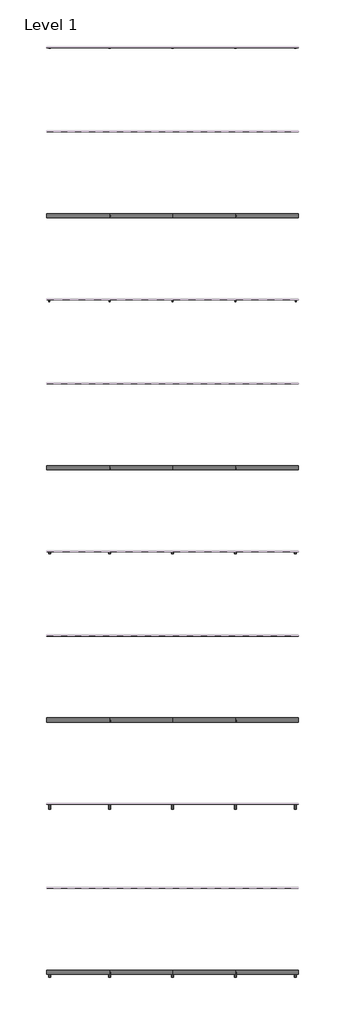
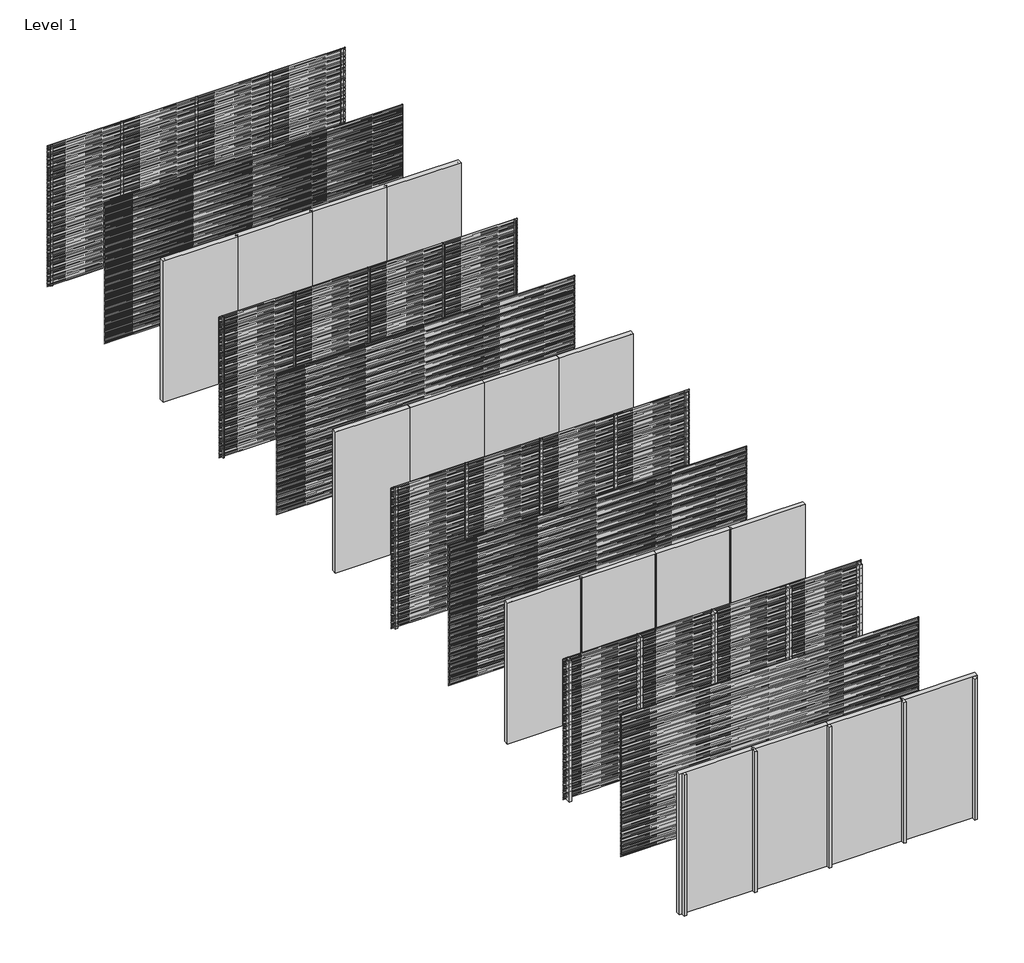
# One storey, part 1 of 31: 41 proxies, 40 members, 36 plates.
"""IFC4 building model written with IfcOpenShell, lengths in millimetres."""

from ifc_helpers import new_model, si_unit, frame, origin, origin_with_axes, place, context, project, spatial, polyline, outline, extrude, transform, mapped, element, save
from components import rectangular_mullion_bbbcbd30, rectangular_mullion_f8d4a220, rectangular_mullion_81aaf6fe, rectangular_mullion_6e08dc26, rectangular_mullion_75c52e10, rectangular_mullion_40295cf1, rectangular_mullion_7f158cb3, rectangular_mullion_66519e13, rectangular_mullion_5829b51c, rectangular_mullion_3b5b8a15, rectangular_mullion_81543344, rectangular_mullion_041a21c4, empty_system_panel_empty_ae16e1e1, empty_system_panel_empty_4cf993bc

model = new_model("IFC4")

# Units and contexts
model_context = context("Model", 3, world=origin())
ifc_project = project(units=[si_unit("LENGTHUNIT", "METRE", prefix="MILLI")], contexts=[model_context])

# Site, building, storey
site = spatial("IfcSite", under=ifc_project)
building = spatial("IfcBuilding", under=site)
storey = spatial("IfcBuildingStorey", under=building, Name="Level 1", Elevation=0.0)

# Proxies
placement = place(None, origin())
element("IfcBuildingElementProxy", 1, Name="Wall Sweeps", at=placement, inside=storey, context=model_context, shape_type="SweptSolid", body=[
    extrude(outline(polyline([(-19995.0, 3000.0), (-19995.0, 2988.942893), (-19976.0, 2973.0), (-19976.0, 2960.0), (-19997.0, 2977.6210923), (-19997.0, 3000.0), (-19995.0, 3000.0)])), frame((0.0, 0.0, 0.0), z_axis=(1.0, 0.0, 0.0), x_axis=(0.0, 1.0, 0.0)), (0.0, 0.0, 1.0), 6000.0),
])
element("IfcBuildingElementProxy", 2, Name="Wall Sweeps", at=placement, inside=storey, context=model_context, shape_type="SweptSolid", body=[
    extrude(outline(polyline([(-19995.0, 2980.0), (-19995.0, 2968.942893), (-19976.0, 2953.0), (-19976.0, 2940.0), (-19997.0, 2957.6210923), (-19997.0, 2980.0), (-19995.0, 2980.0)])), frame((0.0, 0.0, 0.0), z_axis=(1.0, 0.0, 0.0), x_axis=(0.0, 1.0, 0.0)), (0.0, 0.0, 1.0), 6000.0),
])
element("IfcBuildingElementProxy", 3, Name="Wall Sweeps", at=placement, inside=storey, context=model_context, shape_type="SweptSolid", body=[
    extrude(outline(polyline([(-19995.0, 2960.0), (-19995.0, 2948.942893), (-19976.0, 2933.0), (-19976.0, 2920.0), (-19997.0, 2937.6210923), (-19997.0, 2960.0), (-19995.0, 2960.0)])), frame((0.0, 0.0, 0.0), z_axis=(1.0, 0.0, 0.0), x_axis=(0.0, 1.0, 0.0)), (0.0, 0.0, 1.0), 6000.0),
])
element("IfcBuildingElementProxy", 4, Name="Wall Sweeps", at=placement, inside=storey, context=model_context, shape_type="SweptSolid", body=[
    extrude(outline(polyline([(-19995.0, 2940.0), (-19995.0, 2928.942893), (-19976.0, 2913.0), (-19976.0, 2900.0), (-19997.0, 2917.6210923), (-19997.0, 2940.0), (-19995.0, 2940.0)])), frame((0.0, 0.0, 0.0), z_axis=(1.0, 0.0, 0.0), x_axis=(0.0, 1.0, 0.0)), (0.0, 0.0, 1.0), 6000.0),
])
element("IfcBuildingElementProxy", 5, Name="Wall Sweeps", at=placement, inside=storey, context=model_context, shape_type="SweptSolid", body=[
    extrude(outline(polyline([(-19995.0, 2920.0), (-19995.0, 2908.942893), (-19976.0, 2893.0), (-19976.0, 2880.0), (-19997.0, 2897.6210923), (-19997.0, 2920.0), (-19995.0, 2920.0)])), frame((0.0, 0.0, 0.0), z_axis=(1.0, 0.0, 0.0), x_axis=(0.0, 1.0, 0.0)), (0.0, 0.0, 1.0), 6000.0),
])
element("IfcBuildingElementProxy", 6, Name="Wall Sweeps", at=placement, inside=storey, context=model_context, shape_type="SweptSolid", body=[
    extrude(outline(polyline([(-19995.0, 2900.0), (-19995.0, 2888.942893), (-19976.0, 2873.0), (-19976.0, 2860.0), (-19997.0, 2877.6210923), (-19997.0, 2900.0), (-19995.0, 2900.0)])), frame((0.0, 0.0, 0.0), z_axis=(1.0, 0.0, 0.0), x_axis=(0.0, 1.0, 0.0)), (0.0, 0.0, 1.0), 6000.0),
])
element("IfcBuildingElementProxy", 7, Name="Wall Sweeps", at=placement, inside=storey, context=model_context, shape_type="SweptSolid", body=[
    extrude(outline(polyline([(-19995.0, 2880.0), (-19995.0, 2868.942893), (-19976.0, 2853.0), (-19976.0, 2840.0), (-19997.0, 2857.6210923), (-19997.0, 2880.0), (-19995.0, 2880.0)])), frame((0.0, 0.0, 0.0), z_axis=(1.0, 0.0, 0.0), x_axis=(0.0, 1.0, 0.0)), (0.0, 0.0, 1.0), 6000.0),
])
element("IfcBuildingElementProxy", 8, Name="Wall Sweeps", at=placement, inside=storey, context=model_context, shape_type="SweptSolid", body=[
    extrude(outline(polyline([(-19995.0, 2860.0), (-19995.0, 2848.942893), (-19976.0, 2833.0), (-19976.0, 2820.0), (-19997.0, 2837.6210923), (-19997.0, 2860.0), (-19995.0, 2860.0)])), frame((0.0, 0.0, 0.0), z_axis=(1.0, 0.0, 0.0), x_axis=(0.0, 1.0, 0.0)), (0.0, 0.0, 1.0), 6000.0),
])
element("IfcBuildingElementProxy", 9, Name="Wall Sweeps", at=placement, inside=storey, context=model_context, shape_type="SweptSolid", body=[
    extrude(outline(polyline([(-19995.0, 2840.0), (-19995.0, 2828.942893), (-19976.0, 2813.0), (-19976.0, 2800.0), (-19997.0, 2817.6210923), (-19997.0, 2840.0), (-19995.0, 2840.0)])), frame((0.0, 0.0, 0.0), z_axis=(1.0, 0.0, 0.0), x_axis=(0.0, 1.0, 0.0)), (0.0, 0.0, 1.0), 6000.0),
])
element("IfcBuildingElementProxy", 10, Name="Wall Sweeps", at=placement, inside=storey, context=model_context, shape_type="SweptSolid", body=[
    extrude(outline(polyline([(-19995.0, 2820.0), (-19995.0, 2808.942893), (-19976.0, 2793.0), (-19976.0, 2780.0), (-19997.0, 2797.6210923), (-19997.0, 2820.0), (-19995.0, 2820.0)])), frame((0.0, 0.0, 0.0), z_axis=(1.0, 0.0, 0.0), x_axis=(0.0, 1.0, 0.0)), (0.0, 0.0, 1.0), 6000.0),
])
element("IfcBuildingElementProxy", 11, Name="Wall Sweeps", at=placement, inside=storey, context=model_context, shape_type="SweptSolid", body=[
    extrude(outline(polyline([(-19995.0, 2800.0), (-19995.0, 2788.942893), (-19976.0, 2773.0), (-19976.0, 2760.0), (-19997.0, 2777.6210923), (-19997.0, 2800.0), (-19995.0, 2800.0)])), frame((0.0, 0.0, 0.0), z_axis=(1.0, 0.0, 0.0), x_axis=(0.0, 1.0, 0.0)), (0.0, 0.0, 1.0), 6000.0),
])
element("IfcBuildingElementProxy", 12, Name="Wall Sweeps", at=placement, inside=storey, context=model_context, shape_type="SweptSolid", body=[
    extrude(outline(polyline([(-19995.0, 2780.0), (-19995.0, 2768.942893), (-19976.0, 2753.0), (-19976.0, 2740.0), (-19997.0, 2757.6210923), (-19997.0, 2780.0), (-19995.0, 2780.0)])), frame((0.0, 0.0, 0.0), z_axis=(1.0, 0.0, 0.0), x_axis=(0.0, 1.0, 0.0)), (0.0, 0.0, 1.0), 6000.0),
])
element("IfcBuildingElementProxy", 13, Name="Wall Sweeps", at=placement, inside=storey, context=model_context, shape_type="SweptSolid", body=[
    extrude(outline(polyline([(-19995.0, 2760.0), (-19995.0, 2748.942893), (-19976.0, 2733.0), (-19976.0, 2720.0), (-19997.0, 2737.6210923), (-19997.0, 2760.0), (-19995.0, 2760.0)])), frame((0.0, 0.0, 0.0), z_axis=(1.0, 0.0, 0.0), x_axis=(0.0, 1.0, 0.0)), (0.0, 0.0, 1.0), 6000.0),
])
element("IfcBuildingElementProxy", 14, Name="Wall Sweeps", at=placement, inside=storey, context=model_context, shape_type="SweptSolid", body=[
    extrude(outline(polyline([(-19995.0, 2740.0), (-19995.0, 2728.942893), (-19976.0, 2713.0), (-19976.0, 2700.0), (-19997.0, 2717.6210923), (-19997.0, 2740.0), (-19995.0, 2740.0)])), frame((0.0, 0.0, 0.0), z_axis=(1.0, 0.0, 0.0), x_axis=(0.0, 1.0, 0.0)), (0.0, 0.0, 1.0), 6000.0),
])
element("IfcBuildingElementProxy", 15, Name="Wall Sweeps", at=placement, inside=storey, context=model_context, shape_type="SweptSolid", body=[
    extrude(outline(polyline([(-19995.0, 2720.0), (-19995.0, 2708.942893), (-19976.0, 2693.0), (-19976.0, 2680.0), (-19997.0, 2697.6210923), (-19997.0, 2720.0), (-19995.0, 2720.0)])), frame((0.0, 0.0, 0.0), z_axis=(1.0, 0.0, 0.0), x_axis=(0.0, 1.0, 0.0)), (0.0, 0.0, 1.0), 6000.0),
])
element("IfcBuildingElementProxy", 16, Name="Wall Sweeps", at=placement, inside=storey, context=model_context, shape_type="SweptSolid", body=[
    extrude(outline(polyline([(-19995.0, 2700.0), (-19995.0, 2688.942893), (-19976.0, 2673.0), (-19976.0, 2660.0), (-19997.0, 2677.6210923), (-19997.0, 2700.0), (-19995.0, 2700.0)])), frame((0.0, 0.0, 0.0), z_axis=(1.0, 0.0, 0.0), x_axis=(0.0, 1.0, 0.0)), (0.0, 0.0, 1.0), 6000.0),
])
element("IfcBuildingElementProxy", 17, Name="Wall Sweeps", at=placement, inside=storey, context=model_context, shape_type="SweptSolid", body=[
    extrude(outline(polyline([(-19995.0, 2680.0), (-19995.0, 2668.942893), (-19976.0, 2653.0), (-19976.0, 2640.0), (-19997.0, 2657.6210923), (-19997.0, 2680.0), (-19995.0, 2680.0)])), frame((0.0, 0.0, 0.0), z_axis=(1.0, 0.0, 0.0), x_axis=(0.0, 1.0, 0.0)), (0.0, 0.0, 1.0), 6000.0),
])
element("IfcBuildingElementProxy", 18, Name="Wall Sweeps", at=placement, inside=storey, context=model_context, shape_type="SweptSolid", body=[
    extrude(outline(polyline([(-19995.0, 2660.0), (-19995.0, 2648.942893), (-19976.0, 2633.0), (-19976.0, 2620.0), (-19997.0, 2637.6210923), (-19997.0, 2660.0), (-19995.0, 2660.0)])), frame((0.0, 0.0, 0.0), z_axis=(1.0, 0.0, 0.0), x_axis=(0.0, 1.0, 0.0)), (0.0, 0.0, 1.0), 6000.0),
])
element("IfcBuildingElementProxy", 19, Name="Wall Sweeps", at=placement, inside=storey, context=model_context, shape_type="SweptSolid", body=[
    extrude(outline(polyline([(-19995.0, 2640.0), (-19995.0, 2628.942893), (-19976.0, 2613.0), (-19976.0, 2600.0), (-19997.0, 2617.6210923), (-19997.0, 2640.0), (-19995.0, 2640.0)])), frame((0.0, 0.0, 0.0), z_axis=(1.0, 0.0, 0.0), x_axis=(0.0, 1.0, 0.0)), (0.0, 0.0, 1.0), 6000.0),
])
element("IfcBuildingElementProxy", 20, Name="Wall Sweeps", at=placement, inside=storey, context=model_context, shape_type="SweptSolid", body=[
    extrude(outline(polyline([(-19995.0, 2620.0), (-19995.0, 2608.942893), (-19976.0, 2593.0), (-19976.0, 2580.0), (-19997.0, 2597.6210923), (-19997.0, 2620.0), (-19995.0, 2620.0)])), frame((0.0, 0.0, 0.0), z_axis=(1.0, 0.0, 0.0), x_axis=(0.0, 1.0, 0.0)), (0.0, 0.0, 1.0), 6000.0),
])
element("IfcBuildingElementProxy", 21, Name="Wall Sweeps", at=placement, inside=storey, context=model_context, shape_type="SweptSolid", body=[
    extrude(outline(polyline([(-19995.0, 2600.0), (-19995.0, 2588.942893), (-19976.0, 2573.0), (-19976.0, 2560.0), (-19997.0, 2577.6210923), (-19997.0, 2600.0), (-19995.0, 2600.0)])), frame((0.0, 0.0, 0.0), z_axis=(1.0, 0.0, 0.0), x_axis=(0.0, 1.0, 0.0)), (0.0, 0.0, 1.0), 6000.0),
])
element("IfcBuildingElementProxy", 22, Name="Wall Sweeps", at=placement, inside=storey, context=model_context, shape_type="SweptSolid", body=[
    extrude(outline(polyline([(-19995.0, 2580.0), (-19995.0, 2568.942893), (-19976.0, 2553.0), (-19976.0, 2540.0), (-19997.0, 2557.6210923), (-19997.0, 2580.0), (-19995.0, 2580.0)])), frame((0.0, 0.0, 0.0), z_axis=(1.0, 0.0, 0.0), x_axis=(0.0, 1.0, 0.0)), (0.0, 0.0, 1.0), 6000.0),
])
element("IfcBuildingElementProxy", 23, Name="Wall Sweeps", at=placement, inside=storey, context=model_context, shape_type="SweptSolid", body=[
    extrude(outline(polyline([(-19995.0, 2560.0), (-19995.0, 2548.942893), (-19976.0, 2533.0), (-19976.0, 2520.0), (-19997.0, 2537.6210923), (-19997.0, 2560.0), (-19995.0, 2560.0)])), frame((0.0, 0.0, 0.0), z_axis=(1.0, 0.0, 0.0), x_axis=(0.0, 1.0, 0.0)), (0.0, 0.0, 1.0), 6000.0),
])
element("IfcBuildingElementProxy", 24, Name="Wall Sweeps", at=placement, inside=storey, context=model_context, shape_type="SweptSolid", body=[
    extrude(outline(polyline([(-19995.0, 2540.0), (-19995.0, 2528.942893), (-19976.0, 2513.0), (-19976.0, 2500.0), (-19997.0, 2517.6210923), (-19997.0, 2540.0), (-19995.0, 2540.0)])), frame((0.0, 0.0, 0.0), z_axis=(1.0, 0.0, 0.0), x_axis=(0.0, 1.0, 0.0)), (0.0, 0.0, 1.0), 6000.0),
])
element("IfcBuildingElementProxy", 25, Name="Wall Sweeps", at=placement, inside=storey, context=model_context, shape_type="SweptSolid", body=[
    extrude(outline(polyline([(-19995.0, 2520.0), (-19995.0, 2508.942893), (-19976.0, 2493.0), (-19976.0, 2480.0), (-19997.0, 2497.6210923), (-19997.0, 2520.0), (-19995.0, 2520.0)])), frame((0.0, 0.0, 0.0), z_axis=(1.0, 0.0, 0.0), x_axis=(0.0, 1.0, 0.0)), (0.0, 0.0, 1.0), 6000.0),
])
element("IfcBuildingElementProxy", 26, Name="Wall Sweeps", at=placement, inside=storey, context=model_context, shape_type="SweptSolid", body=[
    extrude(outline(polyline([(-19995.0, 2500.0), (-19995.0, 2488.942893), (-19976.0, 2473.0), (-19976.0, 2460.0), (-19997.0, 2477.6210923), (-19997.0, 2500.0), (-19995.0, 2500.0)])), frame((0.0, 0.0, 0.0), z_axis=(1.0, 0.0, 0.0), x_axis=(0.0, 1.0, 0.0)), (0.0, 0.0, 1.0), 6000.0),
])
element("IfcBuildingElementProxy", 27, Name="Wall Sweeps", at=placement, inside=storey, context=model_context, shape_type="SweptSolid", body=[
    extrude(outline(polyline([(-19995.0, 2480.0), (-19995.0, 2468.942893), (-19976.0, 2453.0), (-19976.0, 2440.0), (-19997.0, 2457.6210923), (-19997.0, 2480.0), (-19995.0, 2480.0)])), frame((0.0, 0.0, 0.0), z_axis=(1.0, 0.0, 0.0), x_axis=(0.0, 1.0, 0.0)), (0.0, 0.0, 1.0), 6000.0),
])
element("IfcBuildingElementProxy", 28, Name="Wall Sweeps", at=placement, inside=storey, context=model_context, shape_type="SweptSolid", body=[
    extrude(outline(polyline([(-19995.0, 2460.0), (-19995.0, 2448.942893), (-19976.0, 2433.0), (-19976.0, 2420.0), (-19997.0, 2437.6210923), (-19997.0, 2460.0), (-19995.0, 2460.0)])), frame((0.0, 0.0, 0.0), z_axis=(1.0, 0.0, 0.0), x_axis=(0.0, 1.0, 0.0)), (0.0, 0.0, 1.0), 6000.0),
])
element("IfcBuildingElementProxy", 29, Name="Wall Sweeps", at=placement, inside=storey, context=model_context, shape_type="SweptSolid", body=[
    extrude(outline(polyline([(-19995.0, 2440.0), (-19995.0, 2428.942893), (-19976.0, 2413.0), (-19976.0, 2400.0), (-19997.0, 2417.6210923), (-19997.0, 2440.0), (-19995.0, 2440.0)])), frame((0.0, 0.0, 0.0), z_axis=(1.0, 0.0, 0.0), x_axis=(0.0, 1.0, 0.0)), (0.0, 0.0, 1.0), 6000.0),
])
element("IfcBuildingElementProxy", 30, Name="Wall Sweeps", at=placement, inside=storey, context=model_context, shape_type="SweptSolid", body=[
    extrude(outline(polyline([(-19995.0, 2420.0), (-19995.0, 2408.942893), (-19976.0, 2393.0), (-19976.0, 2380.0), (-19997.0, 2397.6210923), (-19997.0, 2420.0), (-19995.0, 2420.0)])), frame((0.0, 0.0, 0.0), z_axis=(1.0, 0.0, 0.0), x_axis=(0.0, 1.0, 0.0)), (0.0, 0.0, 1.0), 6000.0),
])
element("IfcBuildingElementProxy", 31, Name="Wall Sweeps", at=placement, inside=storey, context=model_context, shape_type="SweptSolid", body=[
    extrude(outline(polyline([(-19995.0, 2400.0), (-19995.0, 2388.942893), (-19976.0, 2373.0), (-19976.0, 2360.0), (-19997.0, 2377.6210923), (-19997.0, 2400.0), (-19995.0, 2400.0)])), frame((0.0, 0.0, 0.0), z_axis=(1.0, 0.0, 0.0), x_axis=(0.0, 1.0, 0.0)), (0.0, 0.0, 1.0), 6000.0),
])
element("IfcBuildingElementProxy", 32, Name="Wall Sweeps", at=placement, inside=storey, context=model_context, shape_type="SweptSolid", body=[
    extrude(outline(polyline([(-19995.0, 2380.0), (-19995.0, 2368.942893), (-19976.0, 2353.0), (-19976.0, 2340.0), (-19997.0, 2357.6210923), (-19997.0, 2380.0), (-19995.0, 2380.0)])), frame((0.0, 0.0, 0.0), z_axis=(1.0, 0.0, 0.0), x_axis=(0.0, 1.0, 0.0)), (0.0, 0.0, 1.0), 6000.0),
])
element("IfcBuildingElementProxy", 33, Name="Wall Sweeps", at=placement, inside=storey, context=model_context, shape_type="SweptSolid", body=[
    extrude(outline(polyline([(-19995.0, 2360.0), (-19995.0, 2348.942893), (-19976.0, 2333.0), (-19976.0, 2320.0), (-19997.0, 2337.6210923), (-19997.0, 2360.0), (-19995.0, 2360.0)])), frame((0.0, 0.0, 0.0), z_axis=(1.0, 0.0, 0.0), x_axis=(0.0, 1.0, 0.0)), (0.0, 0.0, 1.0), 6000.0),
])
element("IfcBuildingElementProxy", 34, Name="Wall Sweeps", at=placement, inside=storey, context=model_context, shape_type="SweptSolid", body=[
    extrude(outline(polyline([(-19995.0, 2340.0), (-19995.0, 2328.942893), (-19976.0, 2313.0), (-19976.0, 2300.0), (-19997.0, 2317.6210923), (-19997.0, 2340.0), (-19995.0, 2340.0)])), frame((0.0, 0.0, 0.0), z_axis=(1.0, 0.0, 0.0), x_axis=(0.0, 1.0, 0.0)), (0.0, 0.0, 1.0), 6000.0),
])
element("IfcBuildingElementProxy", 35, Name="Wall Sweeps", at=placement, inside=storey, context=model_context, shape_type="SweptSolid", body=[
    extrude(outline(polyline([(-19995.0, 2320.0), (-19995.0, 2308.942893), (-19976.0, 2293.0), (-19976.0, 2280.0), (-19997.0, 2297.6210923), (-19997.0, 2320.0), (-19995.0, 2320.0)])), frame((0.0, 0.0, 0.0), z_axis=(1.0, 0.0, 0.0), x_axis=(0.0, 1.0, 0.0)), (0.0, 0.0, 1.0), 6000.0),
])
element("IfcBuildingElementProxy", 36, Name="Wall Sweeps", at=placement, inside=storey, context=model_context, shape_type="SweptSolid", body=[
    extrude(outline(polyline([(-19995.0, 2300.0), (-19995.0, 2288.942893), (-19976.0, 2273.0), (-19976.0, 2260.0), (-19997.0, 2277.6210923), (-19997.0, 2300.0), (-19995.0, 2300.0)])), frame((0.0, 0.0, 0.0), z_axis=(1.0, 0.0, 0.0), x_axis=(0.0, 1.0, 0.0)), (0.0, 0.0, 1.0), 6000.0),
])
element("IfcBuildingElementProxy", 37, Name="Wall Sweeps", at=placement, inside=storey, context=model_context, shape_type="SweptSolid", body=[
    extrude(outline(polyline([(-19995.0, 2280.0), (-19995.0, 2268.942893), (-19976.0, 2253.0), (-19976.0, 2240.0), (-19997.0, 2257.6210923), (-19997.0, 2280.0), (-19995.0, 2280.0)])), frame((0.0, 0.0, 0.0), z_axis=(1.0, 0.0, 0.0), x_axis=(0.0, 1.0, 0.0)), (0.0, 0.0, 1.0), 6000.0),
])
element("IfcBuildingElementProxy", 38, Name="Wall Sweeps", at=placement, inside=storey, context=model_context, shape_type="SweptSolid", body=[
    extrude(outline(polyline([(-19995.0, 2260.0), (-19995.0, 2248.942893), (-19976.0, 2233.0), (-19976.0, 2220.0), (-19997.0, 2237.6210923), (-19997.0, 2260.0), (-19995.0, 2260.0)])), frame((0.0, 0.0, 0.0), z_axis=(1.0, 0.0, 0.0), x_axis=(0.0, 1.0, 0.0)), (0.0, 0.0, 1.0), 6000.0),
])
element("IfcBuildingElementProxy", 39, Name="Wall Sweeps", at=placement, inside=storey, context=model_context, shape_type="SweptSolid", body=[
    extrude(outline(polyline([(-19995.0, 2240.0), (-19995.0, 2228.942893), (-19976.0, 2213.0), (-19976.0, 2200.0), (-19997.0, 2217.6210923), (-19997.0, 2240.0), (-19995.0, 2240.0)])), frame((0.0, 0.0, 0.0), z_axis=(1.0, 0.0, 0.0), x_axis=(0.0, 1.0, 0.0)), (0.0, 0.0, 1.0), 6000.0),
])
element("IfcBuildingElementProxy", 40, Name="Wall Sweeps", at=placement, inside=storey, context=model_context, shape_type="SweptSolid", body=[
    extrude(outline(polyline([(-19995.0, 2220.0), (-19995.0, 2208.942893), (-19976.0, 2193.0), (-19976.0, 2180.0), (-19997.0, 2197.6210923), (-19997.0, 2220.0), (-19995.0, 2220.0)])), frame((0.0, 0.0, 0.0), z_axis=(1.0, 0.0, 0.0), x_axis=(0.0, 1.0, 0.0)), (0.0, 0.0, 1.0), 6000.0),
])
element("IfcBuildingElementProxy", 41, Name="Wall Sweeps", at=placement, inside=storey, context=model_context, shape_type="SweptSolid", body=[
    extrude(outline(polyline([(-19995.0, 2200.0), (-19995.0, 2188.942893), (-19976.0, 2173.0), (-19976.0, 2160.0), (-19997.0, 2177.6210923), (-19997.0, 2200.0), (-19995.0, 2200.0)])), frame((0.0, 0.0, 0.0), z_axis=(1.0, 0.0, 0.0), x_axis=(0.0, 1.0, 0.0)), (0.0, 0.0, 1.0), 6000.0),
])

# Members
rectangular_mullion_shape = rectangular_mullion_bbbcbd30(model_context)
element("IfcMember", 42, ObjectType="Rectangular Mullion : RSen_21_CWM_support profile - 50x12 - left_gen_duco projects", at=placement, inside=storey, context=model_context, shape_type="MappedRepresentation", body=[
    mapped(rectangular_mullion_shape, transform((0.0, 0.0, 0.0), x_axis=(-1.0, 0.0, 0.0), y_axis=(0.0, 1.0, 0.0), z_axis=(0.0, 0.0, -1.0))),
])
element("IfcMember", 43, ObjectType="Rectangular Mullion : RSen_21_CWM_support profile - 50x12 - left_gen_duco projects", at=placement, inside=storey, context=model_context, shape_type="MappedRepresentation", body=[
    mapped(rectangular_mullion_shape, transform((0.0, -4000.0, 0.0), x_axis=(-1.0, 0.0, 0.0), y_axis=(0.0, 1.0, 0.0), z_axis=(0.0, 0.0, -1.0))),
])
rectangular_mullion_2_shape = rectangular_mullion_f8d4a220(model_context)
element("IfcMember", 44, ObjectType="Rectangular Mullion : RSen_21_CWM_support profile - 50x12 - right_gen_duco projects", at=placement, inside=storey, context=model_context, shape_type="MappedRepresentation", body=[
    mapped(rectangular_mullion_2_shape, transform((6000.0, 0.0, 3000.0), x_axis=(1.0, 0.0, 0.0), y_axis=(0.0, 1.0, 0.0), z_axis=(0.0, 0.0, 1.0))),
])
element("IfcMember", 45, ObjectType="Rectangular Mullion : RSen_21_CWM_support profile - 50x12 - right_gen_duco projects", at=placement, inside=storey, context=model_context, shape_type="MappedRepresentation", body=[
    mapped(rectangular_mullion_2_shape, transform((6000.0, -4000.0, 3000.0), x_axis=(1.0, 0.0, 0.0), y_axis=(0.0, 1.0, 0.0), z_axis=(0.0, 0.0, 1.0))),
])
rectangular_mullion_3_shape = rectangular_mullion_81aaf6fe(model_context)
element("IfcMember", 46, ObjectType="Rectangular Mullion : RSen_21_CWM_support profile - 21x50 Multi - left_gen_duco projects", at=placement, inside=storey, context=model_context, shape_type="MappedRepresentation", body=[
    mapped(rectangular_mullion_3_shape, transform((0.0, -6000.0, 0.0), x_axis=(-1.0, 0.0, 0.0), y_axis=(0.0, 1.0, 0.0), z_axis=(0.0, 0.0, -1.0))),
])
element("IfcMember", 47, ObjectType="Rectangular Mullion : RSen_21_CWM_support profile - 21x50 Multi - left_gen_duco projects", at=placement, inside=storey, context=model_context, shape_type="MappedRepresentation", body=[
    mapped(rectangular_mullion_3_shape, transform((0.0, -10000.0, 0.0), x_axis=(-1.0, 0.0, 0.0), y_axis=(0.0, 1.0, 0.0), z_axis=(0.0, 0.0, -1.0))),
])
rectangular_mullion_4_shape = rectangular_mullion_6e08dc26(model_context)
element("IfcMember", 48, ObjectType="Rectangular Mullion : RSen_21_CWM_support profile - 21x50 Multi - right_gen_duco projects", at=placement, inside=storey, context=model_context, shape_type="MappedRepresentation", body=[
    mapped(rectangular_mullion_4_shape, transform((6000.0, -6000.0, 3000.0), x_axis=(1.0, 0.0, 0.0), y_axis=(0.0, 1.0, 0.0), z_axis=(0.0, 0.0, 1.0))),
])
element("IfcMember", 49, ObjectType="Rectangular Mullion : RSen_21_CWM_support profile - 21x50 Multi - right_gen_duco projects", at=placement, inside=storey, context=model_context, shape_type="MappedRepresentation", body=[
    mapped(rectangular_mullion_4_shape, transform((6000.0, -10000.0, 3000.0), x_axis=(1.0, 0.0, 0.0), y_axis=(0.0, 1.0, 0.0), z_axis=(0.0, 0.0, 1.0))),
])
rectangular_mullion_5_shape = rectangular_mullion_75c52e10(model_context)
element("IfcMember", 50, ObjectType="Rectangular Mullion : RSen_21_CWM_support profile - 50x50 - left_gen_duco projects", at=placement, inside=storey, context=model_context, shape_type="MappedRepresentation", body=[
    mapped(rectangular_mullion_5_shape, transform((0.0, -12000.0, 0.0), x_axis=(-1.0, 0.0, 0.0), y_axis=(0.0, 1.0, 0.0), z_axis=(0.0, 0.0, -1.0))),
])
element("IfcMember", 51, ObjectType="Rectangular Mullion : RSen_21_CWM_support profile - 50x50 - left_gen_duco projects", at=placement, inside=storey, context=model_context, shape_type="MappedRepresentation", body=[
    mapped(rectangular_mullion_5_shape, transform((0.0, -16000.0, 0.0), x_axis=(-1.0, 0.0, 0.0), y_axis=(0.0, 1.0, 0.0), z_axis=(0.0, 0.0, -1.0))),
])
rectangular_mullion_6_shape = rectangular_mullion_40295cf1(model_context)
element("IfcMember", 52, ObjectType="Rectangular Mullion : RSen_21_CWM_support profile - 50x50 - right_gen_duco projects", at=placement, inside=storey, context=model_context, shape_type="MappedRepresentation", body=[
    mapped(rectangular_mullion_6_shape, transform((6000.0, -12000.0, 3000.0), x_axis=(1.0, 0.0, 0.0), y_axis=(0.0, 1.0, 0.0), z_axis=(0.0, 0.0, 1.0))),
])
element("IfcMember", 53, ObjectType="Rectangular Mullion : RSen_21_CWM_support profile - 50x50 - right_gen_duco projects", at=placement, inside=storey, context=model_context, shape_type="MappedRepresentation", body=[
    mapped(rectangular_mullion_6_shape, transform((6000.0, -16000.0, 3000.0), x_axis=(1.0, 0.0, 0.0), y_axis=(0.0, 1.0, 0.0), z_axis=(0.0, 0.0, 1.0))),
])
rectangular_mullion_7_shape = rectangular_mullion_7f158cb3(model_context)
element("IfcMember", 54, ObjectType="Rectangular Mullion : RSen_21_CWM_support profile - 50x12_gen_duco projects", at=placement, inside=storey, context=model_context, shape_type="MappedRepresentation", body=[
    mapped(rectangular_mullion_7_shape, transform((4500.0, 0.0, 0.0), x_axis=(-1.0, 0.0, 0.0), y_axis=(0.0, 1.0, 0.0), z_axis=(0.0, 0.0, -1.0))),
])
element("IfcMember", 55, ObjectType="Rectangular Mullion : RSen_21_CWM_support profile - 50x12_gen_duco projects", at=placement, inside=storey, context=model_context, shape_type="MappedRepresentation", body=[
    mapped(rectangular_mullion_7_shape, transform((3000.0, 0.0, 0.0), x_axis=(-1.0, 0.0, 0.0), y_axis=(0.0, 1.0, 0.0), z_axis=(0.0, 0.0, -1.0))),
])
element("IfcMember", 56, ObjectType="Rectangular Mullion : RSen_21_CWM_support profile - 50x12_gen_duco projects", at=placement, inside=storey, context=model_context, shape_type="MappedRepresentation", body=[
    mapped(rectangular_mullion_7_shape, transform((1500.0, 0.0, 0.0), x_axis=(-1.0, 0.0, 0.0), y_axis=(0.0, 1.0, 0.0), z_axis=(0.0, 0.0, -1.0))),
])
element("IfcMember", 57, ObjectType="Rectangular Mullion : RSen_21_CWM_support profile - 50x12_gen_duco projects", at=placement, inside=storey, context=model_context, shape_type="MappedRepresentation", body=[
    mapped(rectangular_mullion_7_shape, transform((4500.0, -4000.0, 0.0), x_axis=(-1.0, 0.0, 0.0), y_axis=(0.0, 1.0, 0.0), z_axis=(0.0, 0.0, -1.0))),
])
element("IfcMember", 58, ObjectType="Rectangular Mullion : RSen_21_CWM_support profile - 50x12_gen_duco projects", at=placement, inside=storey, context=model_context, shape_type="MappedRepresentation", body=[
    mapped(rectangular_mullion_7_shape, transform((3000.0, -4000.0, 0.0), x_axis=(-1.0, 0.0, 0.0), y_axis=(0.0, 1.0, 0.0), z_axis=(0.0, 0.0, -1.0))),
])
element("IfcMember", 59, ObjectType="Rectangular Mullion : RSen_21_CWM_support profile - 50x12_gen_duco projects", at=placement, inside=storey, context=model_context, shape_type="MappedRepresentation", body=[
    mapped(rectangular_mullion_7_shape, transform((1500.0, -4000.0, 0.0), x_axis=(-1.0, 0.0, 0.0), y_axis=(0.0, 1.0, 0.0), z_axis=(0.0, 0.0, -1.0))),
])
rectangular_mullion_8_shape = rectangular_mullion_66519e13(model_context)
element("IfcMember", 60, ObjectType="Rectangular Mullion : RSen_21_CWM_support profile - 21x50 Multi_gen_duco projects", at=placement, inside=storey, context=model_context, shape_type="MappedRepresentation", body=[
    mapped(rectangular_mullion_8_shape, transform((4500.0, -6000.0, 0.0), x_axis=(-1.0, 0.0, 0.0), y_axis=(0.0, 1.0, 0.0), z_axis=(0.0, 0.0, -1.0))),
])
element("IfcMember", 61, ObjectType="Rectangular Mullion : RSen_21_CWM_support profile - 21x50 Multi_gen_duco projects", at=placement, inside=storey, context=model_context, shape_type="MappedRepresentation", body=[
    mapped(rectangular_mullion_8_shape, transform((3000.0, -6000.0, 0.0), x_axis=(-1.0, 0.0, 0.0), y_axis=(0.0, 1.0, 0.0), z_axis=(0.0, 0.0, -1.0))),
])
element("IfcMember", 62, ObjectType="Rectangular Mullion : RSen_21_CWM_support profile - 21x50 Multi_gen_duco projects", at=placement, inside=storey, context=model_context, shape_type="MappedRepresentation", body=[
    mapped(rectangular_mullion_8_shape, transform((1500.0, -6000.0, 0.0), x_axis=(-1.0, 0.0, 0.0), y_axis=(0.0, 1.0, 0.0), z_axis=(0.0, 0.0, -1.0))),
])
element("IfcMember", 63, ObjectType="Rectangular Mullion : RSen_21_CWM_support profile - 21x50 Multi_gen_duco projects", at=placement, inside=storey, context=model_context, shape_type="MappedRepresentation", body=[
    mapped(rectangular_mullion_8_shape, transform((4500.0, -10000.0, 0.0), x_axis=(-1.0, 0.0, 0.0), y_axis=(0.0, 1.0, 0.0), z_axis=(0.0, 0.0, -1.0))),
])
element("IfcMember", 64, ObjectType="Rectangular Mullion : RSen_21_CWM_support profile - 21x50 Multi_gen_duco projects", at=placement, inside=storey, context=model_context, shape_type="MappedRepresentation", body=[
    mapped(rectangular_mullion_8_shape, transform((3000.0, -10000.0, 0.0), x_axis=(-1.0, 0.0, 0.0), y_axis=(0.0, 1.0, 0.0), z_axis=(0.0, 0.0, -1.0))),
])
element("IfcMember", 65, ObjectType="Rectangular Mullion : RSen_21_CWM_support profile - 21x50 Multi_gen_duco projects", at=placement, inside=storey, context=model_context, shape_type="MappedRepresentation", body=[
    mapped(rectangular_mullion_8_shape, transform((1500.0, -10000.0, 0.0), x_axis=(-1.0, 0.0, 0.0), y_axis=(0.0, 1.0, 0.0), z_axis=(0.0, 0.0, -1.0))),
])
rectangular_mullion_9_shape = rectangular_mullion_5829b51c(model_context)
element("IfcMember", 66, ObjectType="Rectangular Mullion : RSen_21_CWM_support profile - 50x50_gen_duco projects", at=placement, inside=storey, context=model_context, shape_type="MappedRepresentation", body=[
    mapped(rectangular_mullion_9_shape, transform((4500.0, -12000.0, 0.0), x_axis=(-1.0, 0.0, 0.0), y_axis=(0.0, 1.0, 0.0), z_axis=(0.0, 0.0, -1.0))),
])
element("IfcMember", 67, ObjectType="Rectangular Mullion : RSen_21_CWM_support profile - 50x50_gen_duco projects", at=placement, inside=storey, context=model_context, shape_type="MappedRepresentation", body=[
    mapped(rectangular_mullion_9_shape, transform((3000.0, -12000.0, 0.0), x_axis=(-1.0, 0.0, 0.0), y_axis=(0.0, 1.0, 0.0), z_axis=(0.0, 0.0, -1.0))),
])
element("IfcMember", 68, ObjectType="Rectangular Mullion : RSen_21_CWM_support profile - 50x50_gen_duco projects", at=placement, inside=storey, context=model_context, shape_type="MappedRepresentation", body=[
    mapped(rectangular_mullion_9_shape, transform((1500.0, -12000.0, 0.0), x_axis=(-1.0, 0.0, 0.0), y_axis=(0.0, 1.0, 0.0), z_axis=(0.0, 0.0, -1.0))),
])
element("IfcMember", 69, ObjectType="Rectangular Mullion : RSen_21_CWM_support profile - 50x50_gen_duco projects", at=placement, inside=storey, context=model_context, shape_type="MappedRepresentation", body=[
    mapped(rectangular_mullion_9_shape, transform((4500.0, -16000.0, 0.0), x_axis=(-1.0, 0.0, 0.0), y_axis=(0.0, 1.0, 0.0), z_axis=(0.0, 0.0, -1.0))),
])
element("IfcMember", 70, ObjectType="Rectangular Mullion : RSen_21_CWM_support profile - 50x50_gen_duco projects", at=placement, inside=storey, context=model_context, shape_type="MappedRepresentation", body=[
    mapped(rectangular_mullion_9_shape, transform((3000.0, -16000.0, 0.0), x_axis=(-1.0, 0.0, 0.0), y_axis=(0.0, 1.0, 0.0), z_axis=(0.0, 0.0, -1.0))),
])
element("IfcMember", 71, ObjectType="Rectangular Mullion : RSen_21_CWM_support profile - 50x50_gen_duco projects", at=placement, inside=storey, context=model_context, shape_type="MappedRepresentation", body=[
    mapped(rectangular_mullion_9_shape, transform((1500.0, -16000.0, 0.0), x_axis=(-1.0, 0.0, 0.0), y_axis=(0.0, 1.0, 0.0), z_axis=(0.0, 0.0, -1.0))),
])
rectangular_mullion_10_shape = rectangular_mullion_3b5b8a15(model_context)
element("IfcMember", 72, ObjectType="Rectangular Mullion : RSen_21_CWM_support profile - 50x125_gen_duco projects", at=placement, inside=storey, context=model_context, shape_type="MappedRepresentation", body=[
    mapped(rectangular_mullion_10_shape, transform((1500.0000002, -18000.0, 0.0), x_axis=(1.0, 0.0, 0.0), y_axis=(0.0, -1.0, 0.0), z_axis=(0.0, 0.0, -1.0))),
])
element("IfcMember", 73, ObjectType="Rectangular Mullion : RSen_21_CWM_support profile - 50x125_gen_duco projects", at=placement, inside=storey, context=model_context, shape_type="MappedRepresentation", body=[
    mapped(rectangular_mullion_10_shape, transform((3000.0, -18000.0, 0.0), x_axis=(1.0, 0.0, 0.0), y_axis=(0.0, -1.0, 0.0), z_axis=(0.0, 0.0, -1.0))),
])
element("IfcMember", 74, ObjectType="Rectangular Mullion : RSen_21_CWM_support profile - 50x125_gen_duco projects", at=placement, inside=storey, context=model_context, shape_type="MappedRepresentation", body=[
    mapped(rectangular_mullion_10_shape, transform((4499.9999998, -18000.0, 0.0), x_axis=(1.0, 0.0, 0.0), y_axis=(0.0, -1.0, 0.0), z_axis=(0.0, 0.0, -1.0))),
])
element("IfcMember", 75, ObjectType="Rectangular Mullion : RSen_21_CWM_support profile - 50x125_gen_duco projects", at=placement, inside=storey, context=model_context, shape_type="MappedRepresentation", body=[
    mapped(rectangular_mullion_10_shape, transform((1500.0000002, -22000.0, 0.0), x_axis=(1.0, 0.0, 0.0), y_axis=(0.0, -1.0, 0.0), z_axis=(0.0, 0.0, -1.0))),
])
element("IfcMember", 76, ObjectType="Rectangular Mullion : RSen_21_CWM_support profile - 50x125_gen_duco projects", at=placement, inside=storey, context=model_context, shape_type="MappedRepresentation", body=[
    mapped(rectangular_mullion_10_shape, transform((3000.0, -22000.0, 0.0), x_axis=(1.0, 0.0, 0.0), y_axis=(0.0, -1.0, 0.0), z_axis=(0.0, 0.0, -1.0))),
])
element("IfcMember", 77, ObjectType="Rectangular Mullion : RSen_21_CWM_support profile - 50x125_gen_duco projects", at=placement, inside=storey, context=model_context, shape_type="MappedRepresentation", body=[
    mapped(rectangular_mullion_10_shape, transform((4499.9999998, -22000.0, 0.0), x_axis=(1.0, 0.0, 0.0), y_axis=(0.0, -1.0, 0.0), z_axis=(0.0, 0.0, -1.0))),
])
rectangular_mullion_11_shape = rectangular_mullion_81543344(model_context)
element("IfcMember", 78, ObjectType="Rectangular Mullion : RSen_21_CWM_support profile - 50x125 - left_gen_duco projects", at=placement, inside=storey, context=model_context, shape_type="MappedRepresentation", body=[
    mapped(rectangular_mullion_11_shape, transform((6000.0, -18000.0, 0.0), x_axis=(1.0, 0.0, 0.0), y_axis=(0.0, -1.0, 0.0), z_axis=(0.0, 0.0, -1.0))),
])
element("IfcMember", 79, ObjectType="Rectangular Mullion : RSen_21_CWM_support profile - 50x125 - left_gen_duco projects", at=placement, inside=storey, context=model_context, shape_type="MappedRepresentation", body=[
    mapped(rectangular_mullion_11_shape, transform((6000.0, -22000.0, 0.0), x_axis=(1.0, 0.0, 0.0), y_axis=(0.0, -1.0, 0.0), z_axis=(0.0, 0.0, -1.0))),
])
rectangular_mullion_12_shape = rectangular_mullion_041a21c4(model_context)
element("IfcMember", 80, ObjectType="Rectangular Mullion : RSen_21_CWM_support profile - 50x125 - right_gen_duco projects", at=placement, inside=storey, context=model_context, shape_type="MappedRepresentation", body=[
    mapped(rectangular_mullion_12_shape, transform((0.0, -18000.0, 3000.0), x_axis=(-1.0, 0.0, 0.0), y_axis=(0.0, -1.0, 0.0), z_axis=(0.0, 0.0, 1.0))),
])
element("IfcMember", 81, ObjectType="Rectangular Mullion : RSen_21_CWM_support profile - 50x125 - right_gen_duco projects", at=placement, inside=storey, context=model_context, shape_type="MappedRepresentation", body=[
    mapped(rectangular_mullion_12_shape, transform((0.0, -22000.0, 3000.0), x_axis=(-1.0, 0.0, 0.0), y_axis=(0.0, -1.0, 0.0), z_axis=(0.0, 0.0, 1.0))),
])

# Plates
element("IfcPlate", 82, ObjectType="RSen_21_WA_louvre blade classic W 20V_gen_duco projects", at=placement, inside=storey, context=model_context, shape_type="SweptSolid", body=[
    extrude(outline(polyline([(0.0, 1.0), (1500.0, 1.0), (1500.0, -1.0), (0.0, -1.0), (0.0, 1.0)])), origin_with_axes(), (0.0, 0.0, 1.0), 3000.0),
])
element("IfcPlate", 83, ObjectType="RSen_21_WA_louvre blade classic W 20V_gen_duco projects", at=placement, inside=storey, context=model_context, shape_type="SweptSolid", body=[
    extrude(outline(polyline([(1500.0, 1.0), (3000.0, 1.0), (3000.0, -1.0), (1500.0, -1.0), (1500.0, 1.0)])), origin_with_axes(), (0.0, 0.0, 1.0), 3000.0),
])
element("IfcPlate", 84, ObjectType="RSen_21_WA_louvre blade classic W 20V_gen_duco projects", at=placement, inside=storey, context=model_context, shape_type="SweptSolid", body=[
    extrude(outline(polyline([(3000.0, 1.0), (4500.0, 1.0), (4500.0, -1.0), (3000.0, -1.0), (3000.0, 1.0)])), origin_with_axes(), (0.0, 0.0, 1.0), 3000.0),
])
element("IfcPlate", 85, ObjectType="RSen_21_WA_louvre blade classic W 20V_gen_duco projects", at=placement, inside=storey, context=model_context, shape_type="SweptSolid", body=[
    extrude(outline(polyline([(4500.0, 1.0), (6000.0, 1.0), (6000.0, -1.0), (4500.0, -1.0), (4500.0, 1.0)])), origin_with_axes(), (0.0, 0.0, 1.0), 3000.0),
])
element("IfcPlate", 86, ObjectType="RSen_21_WA_louvre blade classic W 20V_gen_duco projects", at=placement, inside=storey, context=model_context, shape_type="SweptSolid", body=[
    extrude(outline(polyline([(0.0, -1999.0), (6000.0, -1999.0), (6000.0, -2001.0), (0.0, -2001.0), (0.0, -1999.0)])), origin_with_axes(), (0.0, 0.0, 1.0), 3000.0),
])
element("IfcPlate", 87, ObjectType="RSen_21_WA_louvre blade classic W 20V_gen_duco projects", at=placement, inside=storey, context=model_context, shape_type="SweptSolid", body=[
    extrude(outline(polyline([(0.0, -5999.0), (1500.0, -5999.0), (1500.0, -6001.0), (0.0, -6001.0), (0.0, -5999.0)])), origin_with_axes(), (0.0, 0.0, 1.0), 3000.0),
])
element("IfcPlate", 88, ObjectType="RSen_21_WA_louvre blade classic W 20V_gen_duco projects", at=placement, inside=storey, context=model_context, shape_type="SweptSolid", body=[
    extrude(outline(polyline([(1500.0, -5999.0), (3000.0, -5999.0), (3000.0, -6001.0), (1500.0, -6001.0), (1500.0, -5999.0)])), origin_with_axes(), (0.0, 0.0, 1.0), 3000.0),
])
element("IfcPlate", 89, ObjectType="RSen_21_WA_louvre blade classic W 20V_gen_duco projects", at=placement, inside=storey, context=model_context, shape_type="SweptSolid", body=[
    extrude(outline(polyline([(3000.0, -5999.0), (4500.0, -5999.0), (4500.0, -6001.0), (3000.0, -6001.0), (3000.0, -5999.0)])), origin_with_axes(), (0.0, 0.0, 1.0), 3000.0),
])
element("IfcPlate", 90, ObjectType="RSen_21_WA_louvre blade classic W 20V_gen_duco projects", at=placement, inside=storey, context=model_context, shape_type="SweptSolid", body=[
    extrude(outline(polyline([(4500.0, -5999.0), (6000.0, -5999.0), (6000.0, -6001.0), (4500.0, -6001.0), (4500.0, -5999.0)])), origin_with_axes(), (0.0, 0.0, 1.0), 3000.0),
])
element("IfcPlate", 91, ObjectType="RSen_21_WA_louvre blade classic W 20V_gen_duco projects", at=placement, inside=storey, context=model_context, shape_type="SweptSolid", body=[
    extrude(outline(polyline([(0.0, -7999.0), (6000.0, -7999.0), (6000.0, -8001.0), (0.0, -8001.0), (0.0, -7999.0)])), origin_with_axes(), (0.0, 0.0, 1.0), 3000.0),
])
element("IfcPlate", 92, ObjectType="RSen_21_WA_louvre blade classic W 20V_gen_duco projects", at=placement, inside=storey, context=model_context, shape_type="SweptSolid", body=[
    extrude(outline(polyline([(0.0, -11999.0), (1500.0, -11999.0), (1500.0, -12001.0), (0.0, -12001.0), (0.0, -11999.0)])), origin_with_axes(), (0.0, 0.0, 1.0), 3000.0),
])
element("IfcPlate", 93, ObjectType="RSen_21_WA_louvre blade classic W 20V_gen_duco projects", at=placement, inside=storey, context=model_context, shape_type="SweptSolid", body=[
    extrude(outline(polyline([(1500.0, -11999.0), (3000.0, -11999.0), (3000.0, -12001.0), (1500.0, -12001.0), (1500.0, -11999.0)])), origin_with_axes(), (0.0, 0.0, 1.0), 3000.0),
])
element("IfcPlate", 94, ObjectType="RSen_21_WA_louvre blade classic W 20V_gen_duco projects", at=placement, inside=storey, context=model_context, shape_type="SweptSolid", body=[
    extrude(outline(polyline([(3000.0, -11999.0), (4500.0, -11999.0), (4500.0, -12001.0), (3000.0, -12001.0), (3000.0, -11999.0)])), origin_with_axes(), (0.0, 0.0, 1.0), 3000.0),
])
element("IfcPlate", 95, ObjectType="RSen_21_WA_louvre blade classic W 20V_gen_duco projects", at=placement, inside=storey, context=model_context, shape_type="SweptSolid", body=[
    extrude(outline(polyline([(4500.0, -11999.0), (6000.0, -11999.0), (6000.0, -12001.0), (4500.0, -12001.0), (4500.0, -11999.0)])), origin_with_axes(), (0.0, 0.0, 1.0), 3000.0),
])
element("IfcPlate", 96, ObjectType="RSen_21_WA_louvre blade classic W 20V_gen_duco projects", at=placement, inside=storey, context=model_context, shape_type="SweptSolid", body=[
    extrude(outline(polyline([(0.0, -13999.0), (6000.0, -13999.0), (6000.0, -14001.0), (0.0, -14001.0), (0.0, -13999.0)])), origin_with_axes(), (0.0, 0.0, 1.0), 3000.0),
])
element("IfcPlate", 97, ObjectType="RSen_21_WA_louvre blade classic W 20V_gen_duco projects", at=placement, inside=storey, context=model_context, shape_type="SweptSolid", body=[
    extrude(outline(polyline([(6000.0, -18001.0), (4499.9999998, -18001.0), (4499.9999998, -17999.0), (6000.0, -17999.0), (6000.0, -18001.0)])), origin_with_axes(), (0.0, 0.0, 1.0), 3000.0),
])
element("IfcPlate", 98, ObjectType="RSen_21_WA_louvre blade classic W 20V_gen_duco projects", at=placement, inside=storey, context=model_context, shape_type="SweptSolid", body=[
    extrude(outline(polyline([(4499.9999998, -18001.0), (3000.0, -18001.0), (3000.0, -17999.0), (4499.9999998, -17999.0), (4499.9999998, -18001.0)])), origin_with_axes(), (0.0, 0.0, 1.0), 3000.0),
])
element("IfcPlate", 99, ObjectType="RSen_21_WA_louvre blade classic W 20V_gen_duco projects", at=placement, inside=storey, context=model_context, shape_type="SweptSolid", body=[
    extrude(outline(polyline([(3000.0, -18001.0), (1500.0000002, -18001.0), (1500.0000002, -17999.0), (3000.0, -17999.0), (3000.0, -18001.0)])), origin_with_axes(), (0.0, 0.0, 1.0), 3000.0),
])
element("IfcPlate", 100, ObjectType="RSen_21_WA_louvre blade classic W 20V_gen_duco projects", at=placement, inside=storey, context=model_context, shape_type="SweptSolid", body=[
    extrude(outline(polyline([(1500.0000002, -18001.0), (0.0, -18001.0), (0.0, -17999.0), (1500.0000002, -17999.0), (1500.0000002, -18001.0)])), origin_with_axes(), (0.0, 0.0, 1.0), 3000.0),
])
element("IfcPlate", 101, ObjectType="RSen_21_WA_louvre blade classic W 20V_gen_duco projects", at=placement, inside=storey, context=model_context, shape_type="SweptSolid", body=[
    extrude(outline(polyline([(6000.0, -20001.0), (0.0, -20001.0), (0.0, -19999.0), (6000.0, -19999.0), (6000.0, -20001.0)])), origin_with_axes(), (0.0, 0.0, 1.0), 3000.0),
])
empty_system_panel_empty_shape = empty_system_panel_empty_ae16e1e1(model_context)
element("IfcPlate", 102, ObjectType="Empty System Panel : Empty", at=placement, inside=storey, context=model_context, shape_type="MappedRepresentation", body=[
    mapped(empty_system_panel_empty_shape, transform((5250.0, -4000.0, 0.0), x_axis=(-1.0, 0.0, 0.0), y_axis=(0.0, -1.0, 0.0), z_axis=(0.0, 0.0, 1.0))),
])
element("IfcPlate", 103, ObjectType="Empty System Panel : Empty", at=placement, inside=storey, context=model_context, shape_type="MappedRepresentation", body=[
    mapped(empty_system_panel_empty_shape, transform((5250.0, -10000.0, 0.0), x_axis=(-1.0, 0.0, 0.0), y_axis=(0.0, -1.0, 0.0), z_axis=(0.0, 0.0, 1.0))),
])
element("IfcPlate", 104, ObjectType="Empty System Panel : Empty", at=placement, inside=storey, context=model_context, shape_type="MappedRepresentation", body=[
    mapped(empty_system_panel_empty_shape, transform((5250.0, -16000.0, 0.0), x_axis=(-1.0, 0.0, 0.0), y_axis=(0.0, -1.0, 0.0), z_axis=(0.0, 0.0, 1.0))),
])
element("IfcPlate", 105, ObjectType="Empty System Panel : Empty", at=placement, inside=storey, context=model_context, shape_type="MappedRepresentation", body=[
    mapped(empty_system_panel_empty_shape, transform((3750.0, -4000.0, 0.0), x_axis=(-1.0, 0.0, 0.0), y_axis=(0.0, -1.0, 0.0), z_axis=(0.0, 0.0, 1.0))),
])
element("IfcPlate", 106, ObjectType="Empty System Panel : Empty", at=placement, inside=storey, context=model_context, shape_type="MappedRepresentation", body=[
    mapped(empty_system_panel_empty_shape, transform((2250.0, -4000.0, 0.0), x_axis=(-1.0, 0.0, 0.0), y_axis=(0.0, -1.0, 0.0), z_axis=(0.0, 0.0, 1.0))),
])
element("IfcPlate", 107, ObjectType="Empty System Panel : Empty", at=placement, inside=storey, context=model_context, shape_type="MappedRepresentation", body=[
    mapped(empty_system_panel_empty_shape, transform((750.0, -4000.0, 0.0), x_axis=(-1.0, 0.0, 0.0), y_axis=(0.0, -1.0, 0.0), z_axis=(0.0, 0.0, 1.0))),
])
element("IfcPlate", 108, ObjectType="Empty System Panel : Empty", at=placement, inside=storey, context=model_context, shape_type="MappedRepresentation", body=[
    mapped(empty_system_panel_empty_shape, transform((3750.0, -10000.0, 0.0), x_axis=(-1.0, 0.0, 0.0), y_axis=(0.0, -1.0, 0.0), z_axis=(0.0, 0.0, 1.0))),
])
element("IfcPlate", 109, ObjectType="Empty System Panel : Empty", at=placement, inside=storey, context=model_context, shape_type="MappedRepresentation", body=[
    mapped(empty_system_panel_empty_shape, transform((2250.0, -10000.0, 0.0), x_axis=(-1.0, 0.0, 0.0), y_axis=(0.0, -1.0, 0.0), z_axis=(0.0, 0.0, 1.0))),
])
element("IfcPlate", 110, ObjectType="Empty System Panel : Empty", at=placement, inside=storey, context=model_context, shape_type="MappedRepresentation", body=[
    mapped(empty_system_panel_empty_shape, transform((750.0, -10000.0, 0.0), x_axis=(-1.0, 0.0, 0.0), y_axis=(0.0, -1.0, 0.0), z_axis=(0.0, 0.0, 1.0))),
])
element("IfcPlate", 111, ObjectType="Empty System Panel : Empty", at=placement, inside=storey, context=model_context, shape_type="MappedRepresentation", body=[
    mapped(empty_system_panel_empty_shape, transform((3750.0, -16000.0, 0.0), x_axis=(-1.0, 0.0, 0.0), y_axis=(0.0, -1.0, 0.0), z_axis=(0.0, 0.0, 1.0))),
])
element("IfcPlate", 112, ObjectType="Empty System Panel : Empty", at=placement, inside=storey, context=model_context, shape_type="MappedRepresentation", body=[
    mapped(empty_system_panel_empty_shape, transform((2250.0, -16000.0, 0.0), x_axis=(-1.0, 0.0, 0.0), y_axis=(0.0, -1.0, 0.0), z_axis=(0.0, 0.0, 1.0))),
])
element("IfcPlate", 113, ObjectType="Empty System Panel : Empty", at=placement, inside=storey, context=model_context, shape_type="MappedRepresentation", body=[
    mapped(empty_system_panel_empty_shape, transform((750.0, -16000.0, 0.0), x_axis=(-1.0, 0.0, 0.0), y_axis=(0.0, -1.0, 0.0), z_axis=(0.0, 0.0, 1.0))),
])
empty_system_panel_empty_2_shape = empty_system_panel_empty_4cf993bc(model_context)
element("IfcPlate", 114, ObjectType="Empty System Panel : Empty", at=placement, inside=storey, context=model_context, shape_type="MappedRepresentation", body=[
    mapped(empty_system_panel_empty_2_shape, transform((750.0000001, -22000.0, 0.0), x_axis=(1.0, 0.0, 0.0), y_axis=(0.0, 1.0, 0.0), z_axis=(0.0, 0.0, 1.0))),
])
element("IfcPlate", 115, ObjectType="Empty System Panel : Empty", at=placement, inside=storey, context=model_context, shape_type="MappedRepresentation", body=[
    mapped(empty_system_panel_empty_2_shape, transform((2250.0000001, -22000.0, 0.0), x_axis=(1.0, 0.0, 0.0), y_axis=(0.0, 1.0, 0.0), z_axis=(0.0, 0.0, 1.0))),
])
element("IfcPlate", 116, ObjectType="Empty System Panel : Empty", at=placement, inside=storey, context=model_context, shape_type="MappedRepresentation", body=[
    mapped(empty_system_panel_empty_2_shape, transform((3749.9999999, -22000.0, 0.0), x_axis=(1.0, 0.0, 0.0), y_axis=(0.0, 1.0, 0.0), z_axis=(0.0, 0.0, 1.0))),
])
element("IfcPlate", 117, ObjectType="Empty System Panel : Empty", at=placement, inside=storey, context=model_context, shape_type="MappedRepresentation", body=[
    mapped(empty_system_panel_empty_2_shape, transform((5249.9999999, -22000.0, 0.0), x_axis=(1.0, 0.0, 0.0), y_axis=(0.0, 1.0, 0.0), z_axis=(0.0, 0.0, 1.0))),
])

save(model, "model.ifc")
